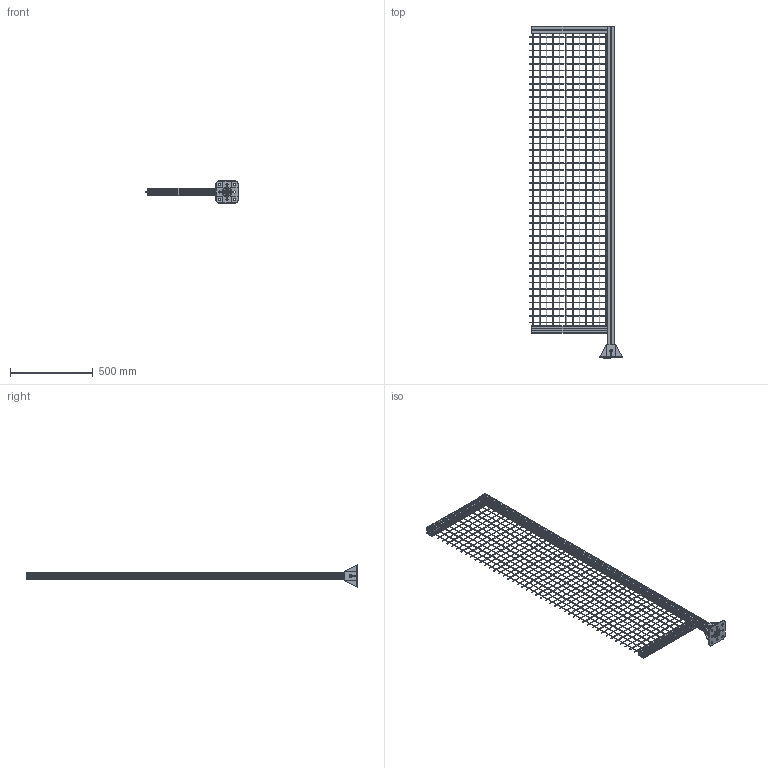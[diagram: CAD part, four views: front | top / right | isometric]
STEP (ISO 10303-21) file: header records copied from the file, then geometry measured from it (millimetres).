
FILE_DESCRIPTION (( 'STEP AP214' ), '1' );
FILE_NAME ('5.0003 Laitesuojan jatkoelementti 500X2000 mm keltainen.STEP', '2026-03-02T13:42:51', ( '' ), ( '' ), 'SwSTEP 2.0', 'SolidWorks 2025', '' );
FILE_SCHEMA (( 'AUTOMOTIVE_DESIGN' ));
Length unit declared in the file: millimetre
Products named in the file (1): 5.0003 Laitesuojan jatkoelementti 500X2000 mm keltainen
Bounding box: 558 x 2003 x 134 mm (x, y, z)
Volume: 2399350.5 mm3; surface area: 2388872.3 mm2
Topology: 73 solids, 73 shells, 1451 faces, 3759 edges, 2458 vertices
Faces by surface type: plane 783, cylinder 523, bspline 89, cone 36, torus 20
Entity records: 64271 total; most frequent: CARTESIAN_POINT 11710, ORIENTED_EDGE 7502, DIRECTION 7361, EDGE_CURVE 3751, AXIS2_PLACEMENT_3D 2497, VERTEX_POINT 2458, LINE 2367, VECTOR 2367
